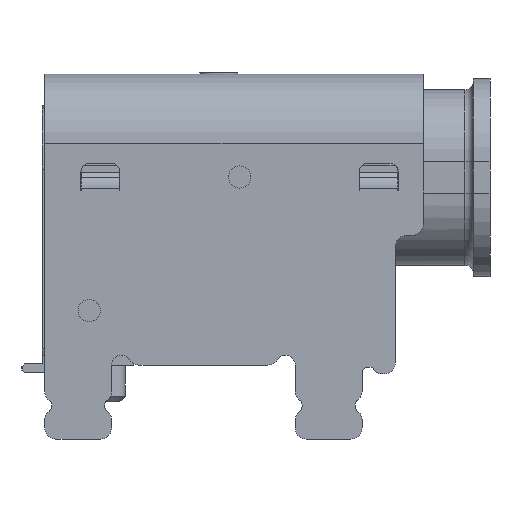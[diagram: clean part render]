
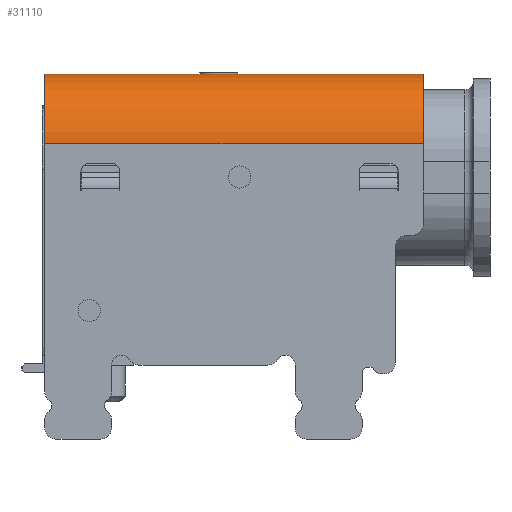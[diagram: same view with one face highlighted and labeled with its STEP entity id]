
A CAD part, front view. The second image highlights one B-rep face of the part: STEP entity #31110.
In plain terms, the highlighted cylindrical face has radius 1.25 mm (diameter 2.5 mm), a partial arc.
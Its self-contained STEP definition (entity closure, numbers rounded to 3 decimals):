
#12011=CARTESIAN_POINT('',(6.8,-3.485,-1.25));
#12012=DIRECTION('',(1.,0.,0.));
#12013=DIRECTION('',(0.,0.,1.));
#12014=AXIS2_PLACEMENT_3D('',#12011,#12012,#12013);
#12657=CARTESIAN_POINT('',(0.,-3.485,-1.25));
#12658=DIRECTION('',(1.,0.,0.));
#12659=DIRECTION('',(0.,0.,1.));
#12660=AXIS2_PLACEMENT_3D('',#12657,#12658,#12659);
#12674=DIRECTION('',(-1.,0.,0.));
#12675=VECTOR('',#12674,6.8);
#12676=CARTESIAN_POINT('',(6.8,-4.735,-1.25));
#12677=LINE('',#12676,#12675);
#12678=DIRECTION('',(1.,0.,0.));
#12679=VECTOR('',#12678,6.8);
#12680=CARTESIAN_POINT('',(0.,-3.485,0.));
#12681=LINE('',#12680,#12679);
#21584=CARTESIAN_POINT('',(6.8,-3.485,0.));
#21585=VERTEX_POINT('',#21584);
#21586=CARTESIAN_POINT('',(0.,-3.485,0.));
#21587=VERTEX_POINT('',#21586);
#21690=CARTESIAN_POINT('',(6.8,-4.735,-1.25));
#21691=VERTEX_POINT('',#21690);
#21920=CARTESIAN_POINT('',(0.,-4.735,-1.25));
#21921=VERTEX_POINT('',#21920);
#31099=CARTESIAN_POINT('',(6.936,-3.485,-1.25));
#31100=DIRECTION('',(-1.,0.,0.));
#31101=DIRECTION('',(0.,0.,1.));
#31102=AXIS2_PLACEMENT_3D('',#31099,#31100,#31101);
#31103=CYLINDRICAL_SURFACE('',#31102,1.25);
#31104=ORIENTED_EDGE('',*,*,#31079,.T.);
#31105=ORIENTED_EDGE('',*,*,#30499,.F.);
#31106=ORIENTED_EDGE('',*,*,#30295,.F.);
#31107=ORIENTED_EDGE('',*,*,#30068,.F.);
#31108=EDGE_LOOP('',(#31104,#31105,#31106,#31107));
#31109=FACE_OUTER_BOUND('',#31108,.F.);
#12015=CIRCLE('',#12014,1.25);
#12661=CIRCLE('',#12660,1.25);
#30068=EDGE_CURVE('',#21587,#21585,#12681,.T.);
#30295=EDGE_CURVE('',#21585,#21691,#12015,.T.);
#30499=EDGE_CURVE('',#21691,#21921,#12677,.T.);
#31079=EDGE_CURVE('',#21587,#21921,#12661,.T.);
#31110=ADVANCED_FACE('',(#31109),#31103,.F.);
